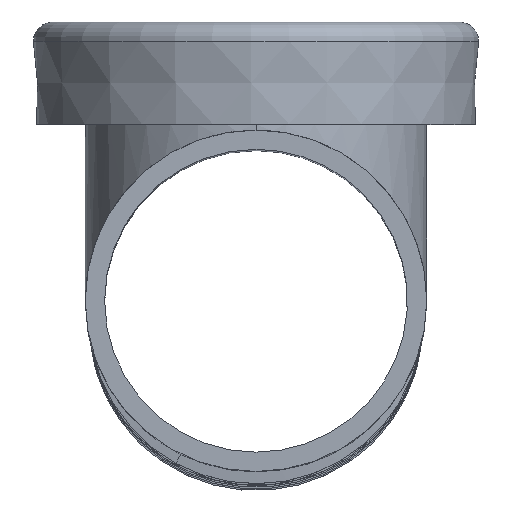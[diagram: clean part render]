
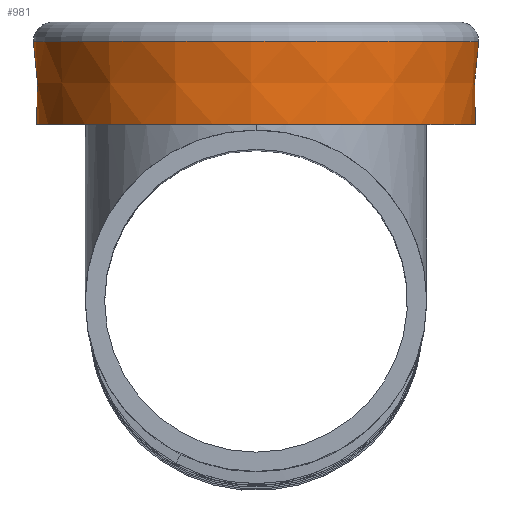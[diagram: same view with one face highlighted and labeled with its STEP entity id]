
A CAD part, top view. The second image highlights one B-rep face of the part: STEP entity #981.
In plain terms, the highlighted conical face has half-angle 2.254 degrees and reference radius 71.89 mm.
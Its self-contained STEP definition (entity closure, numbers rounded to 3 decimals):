
#193=CONICAL_SURFACE('',#1034,71.89,2.254);
#218=FACE_BOUND('',#272,.T.);
#223=FACE_OUTER_BOUND('',#271,.T.);
#271=EDGE_LOOP('',(#625));
#272=EDGE_LOOP('',(#626));
#321=CIRCLE('',#1031,70.942);
#324=CIRCLE('',#1035,71.995);
#360=VERTEX_POINT('',#1348);
#363=VERTEX_POINT('',#1355);
#470=EDGE_CURVE('',#360,#360,#321,.T.);
#473=EDGE_CURVE('',#363,#363,#324,.T.);
#625=ORIENTED_EDGE('',*,*,#470,.T.);
#626=ORIENTED_EDGE('',*,*,#473,.F.);
#981=ADVANCED_FACE('',(#223,#218),#193,.T.);
#1031=AXIS2_PLACEMENT_3D('',#1349,#1122,#1123);
#1034=AXIS2_PLACEMENT_3D('',#1354,#1128,#1129);
#1035=AXIS2_PLACEMENT_3D('',#1356,#1130,#1131);
#1122=DIRECTION('center_axis',(0.,1.,0.));
#1123=DIRECTION('ref_axis',(0.698,0.,-0.716));
#1128=DIRECTION('center_axis',(0.,1.,0.));
#1129=DIRECTION('ref_axis',(0.698,0.,-0.716));
#1130=DIRECTION('center_axis',(0.,1.,0.));
#1131=DIRECTION('ref_axis',(0.878,0.,-0.479));
#1348=CARTESIAN_POINT('',(-62.258,57.2,34.011));
#1349=CARTESIAN_POINT('Origin',(0.,57.2,
0.));
#1354=CARTESIAN_POINT('Origin',(0.,81.288,
0.));
#1355=CARTESIAN_POINT('',(63.182,83.964,-34.516));
#1356=CARTESIAN_POINT('Origin',(0.,83.964,0.));
